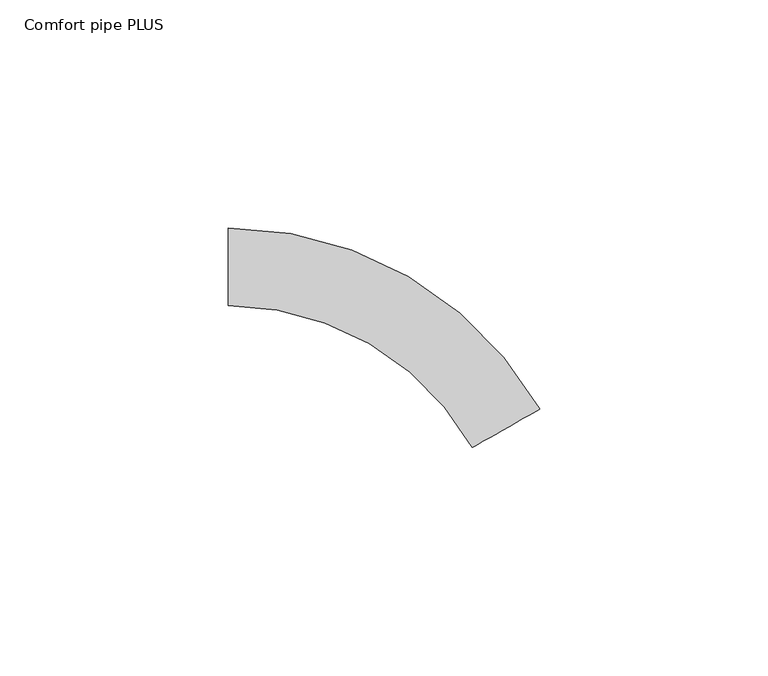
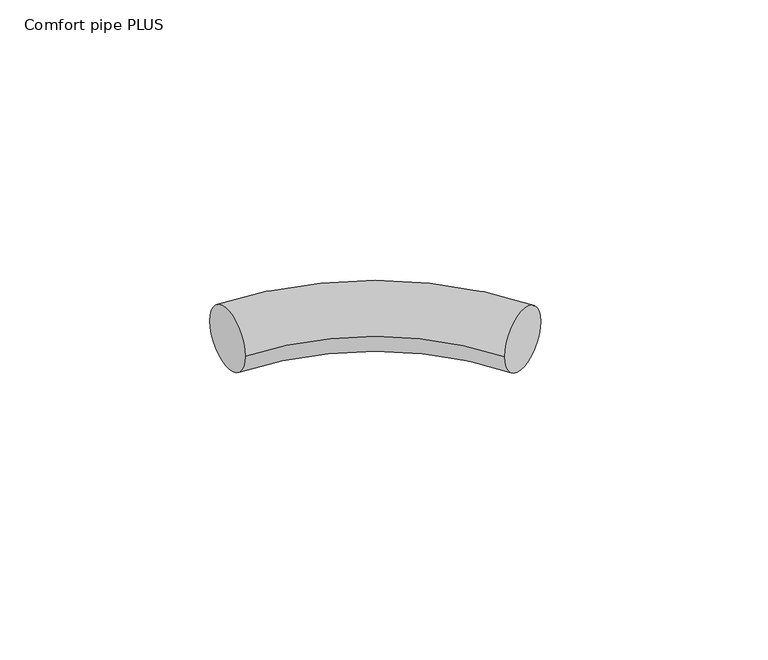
"""IFC4 building model written with IfcOpenShell, lengths in millimetres: pipe fitting geometry, 400_5-_Uponor_curved_Elbow : Comfort pipe PLUS."""

from ifc_helpers import new_model, si_unit, point, frame, origin, place, context, project, spatial, circle_curve, ellipse_curve, trimmed, source, transform, mapped, element, save
from ifc_brep_helpers import plane_surface, revolved_surface, advanced_brep


def comfort_pipe_plus_6c5c0cc0(model_context):
    return source(origin(), model_context, "Body", "AdvancedBrep", [
        advanced_brep(
        [(-40.7072088, 8.5, 0.0), (-40.7072088, -8.5, 0.0), (27.520179, -31.1763789, 0.0), (12.7448211, -39.5840421, 0.0)],
        [
            (0, 1, circle_curve(frame((-40.7072088, 0.0, 0.0), z_axis=(-1.0, 0.0, 0.0), x_axis=(0.0, -1.0, 0.0)), 8.5)),
            (1, 0, circle_curve(frame((-40.7072088, 0.0, 0.0), z_axis=(-1.0, 0.0, 0.0), x_axis=(0.0, -1.0, 0.0)), 8.5)),
            (2, 3, circle_curve(frame((20.1325, -35.3802105, 0.0), z_axis=(0.4945684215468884, -0.8691386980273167, 0.0), x_axis=(-0.8691386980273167, -0.4945684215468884, 0.0)), 8.5)),
            (3, 2, circle_curve(frame((20.1325, -35.3802105, 0.0), z_axis=(0.4945684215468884, -0.8691386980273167, 0.0), x_axis=(-0.8691386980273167, -0.4945684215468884, 0.0)), 8.5)),
            (2, 0, circle_curve(frame((-40.7072088, -70.0, 0.0), z_axis=(0.0, 0.0, 1.0), x_axis=(0.0, 1.0, 0.0)), 78.5)),
            (1, 3, circle_curve(frame((-40.7072088, -70.0, 0.0), z_axis=(0.0, 0.0, -1.0), x_axis=(0.0, 1.0, 0.0)), 61.5)),
        ],
        [
            plane_surface(frame((-40.7072088, 0.0, 0.0), z_axis=(-1.0, 0.0, 0.0), x_axis=(0.0, 0.0, 1.0))),
            plane_surface(frame((20.1325, -35.3802105, 0.0), z_axis=(0.4945684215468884, -0.8691386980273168, 0.0), x_axis=(0.0, 0.0, 1.0))),
            revolved_surface(trimmed(ellipse_curve(frame((-40.7072088, 0.0, 0.0), z_axis=(1.0, 0.0, 0.0), x_axis=(0.0, -1.0, 0.0)), 8.5, 8.5), [point((-40.7072088, 8.5, 0.0))], [point((-40.7072088, -8.5, 0.0))], True, "CARTESIAN"), (-40.7072088, -70.0, 0.0), (0.0, 0.0, 1.0)),
            revolved_surface(trimmed(ellipse_curve(frame((-40.7072088, 0.0, 0.0), z_axis=(1.0, 0.0, 0.0), x_axis=(0.0, -1.0, 0.0)), 8.5, 8.5), [point((-40.7072088, -8.5, 0.0))], [point((-40.7072088, 8.5, 0.0))], True, "CARTESIAN"), (-40.7072088, -70.0, 0.0), (0.0, 0.0, 1.0)),
        ],
        [
            (0, [[1, 2]]),
            (1, [[3, 4]]),
            (2, [[-3, 5, -2, 6]]),
            (3, [[-4, -6, -1, -5]]),
        ],
    ),
    ])


if __name__ == "__main__":
    model = new_model("IFC4")
    model_context = context("Model", 3, world=origin())
    ifc_project = project(units=[si_unit("LENGTHUNIT", "METRE", prefix="MILLI")], contexts=[model_context])
    site = spatial("IfcSite", under=ifc_project)
    building = spatial("IfcBuilding", under=site)
    placement = place(None, origin())
    comfort_pipe_plus_shape = comfort_pipe_plus_6c5c0cc0(model_context)
    element("IfcPipeFitting", 1, ObjectType="400_5-_Uponor_curved_Elbow : Comfort pipe PLUS", at=placement, inside=building, context=model_context, shape_type="MappedRepresentation", body=[
        mapped(comfort_pipe_plus_shape, transform((0.0, 0.0, 0.0), x_axis=(1.0, 0.0, 0.0), y_axis=(0.0, 1.0, 0.0), z_axis=(0.0, 0.0, 1.0))),
    ])
    save(model, "model.ifc")
